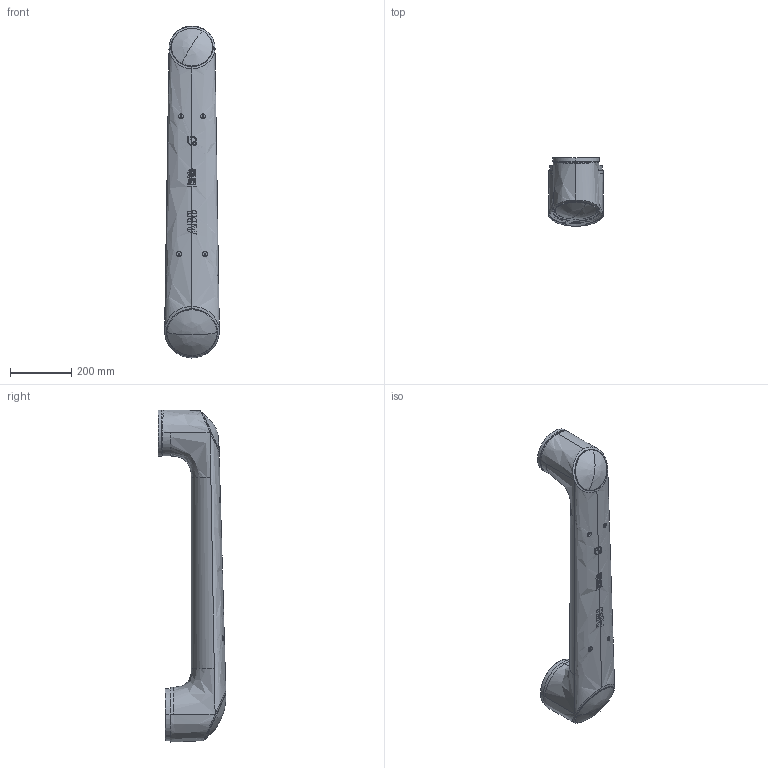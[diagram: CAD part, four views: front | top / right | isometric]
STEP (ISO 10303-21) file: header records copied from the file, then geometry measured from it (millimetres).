
FILE_DESCRIPTION (( 'STEP AP214' ), '1' );
FILE_NAME ('CRB1920_16kg-1960_OmniCore_rev00_Link2.step', '2026-03-06T03:41:54', ( '' ), ( '' ), 'SwSTEP 2.0', 'SolidWorks 2022', '' );
FILE_SCHEMA (( 'AUTOMOTIVE_DESIGN' ));
Length unit declared in the file: millimetre
Products named in the file (1): CRB1920_16kg-1960_OmniCore_rev00_Link2
Bounding box: 178.98 x 221.91 x 1084.7 mm (x, y, z)
Volume: 17390129.6 mm3; surface area: 577808 mm2
Topology: 1 solids, 1 shells, 484 faces, 1273 edges, 824 vertices
Faces by surface type: bspline 387, cylinder 40, plane 36, cone 11, torus 10
Entity records: 76080 total; most frequent: CARTESIAN_POINT 67017, ORIENTED_EDGE 2522, EDGE_CURVE 1261, B_SPLINE_CURVE_WITH_KNOTS 1077, VERTEX_POINT 824, EDGE_LOOP 529, DIRECTION 486, FACE_OUTER_BOUND 484
